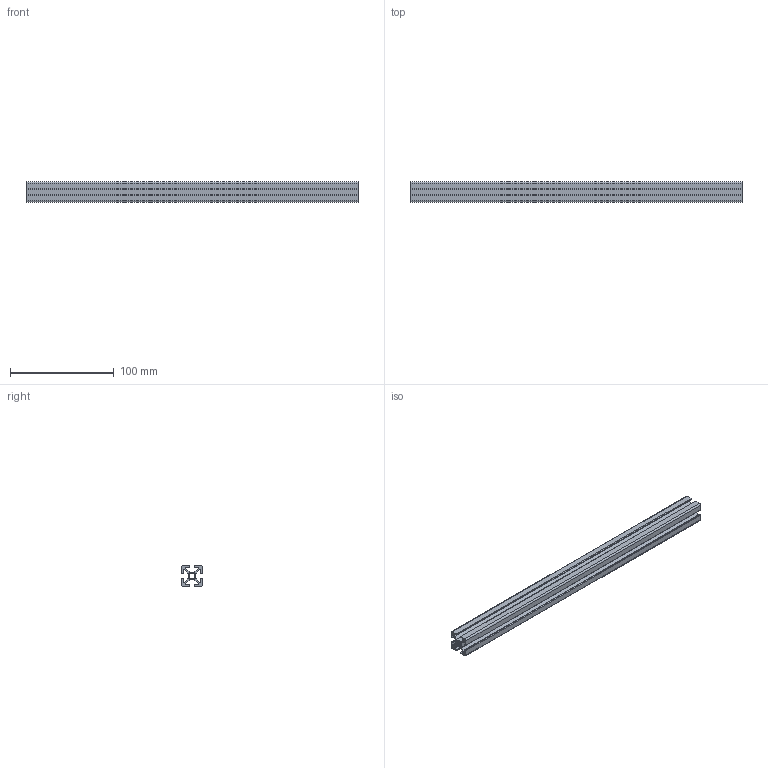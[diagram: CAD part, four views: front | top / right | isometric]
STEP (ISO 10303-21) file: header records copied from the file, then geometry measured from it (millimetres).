
FILE_DESCRIPTION(/* description */ ('STEP AP242 Edition 2','CAx-IF Rec.Pracs.---Representation and Presentation of Product Manufacturing Information (PMI)---4.0---2014-10-13','CAx-IF Rec.Pracs.---3D Tessellated Geometry---0.4---2014-09-14','2;1','CAx-IF Rec.Pracs.---User Defined Attributes---1.5---2016-08-15'),/* implementation_level */ '2;1');
FILE_NAME(/* name */ 'Assembly 1 - Part 3 (1)',/* time_stamp */ '2026-10-08T06:00:15Z',/* author */ (''),/* organization */ (''),/* preprocessor_version */ 'ST-DEVELOPER v20',/* originating_system */ 'ONSHAPE BY PTC INC, 1.221',/* authorisation */ ' ');
FILE_SCHEMA (('AP242_MANAGED_MODEL_BASED_3D_ENGINEERING_MIM_LF { 1 0 10303 442 3 1 4 }'));
Length unit declared in the file: metre
Products named in the file (1): Part 3
Bounding box: 320 x 20 x 20 mm (x, y, z)
Volume: 51998.5 mm3; surface area: 58231.2 mm2
Topology: 1 solids, 1 shells, 106 faces, 318 edges, 214 vertices
Faces by surface type: bspline 106
Entity records: 3822 total; most frequent: CARTESIAN_POINT 1181, ORIENTED_EDGE 636, DIRECTION 438, EDGE_CURVE 318, VERTEX_POINT 214, LINE 200, VECTOR 200, AXIS2_PLACEMENT_3D 119
